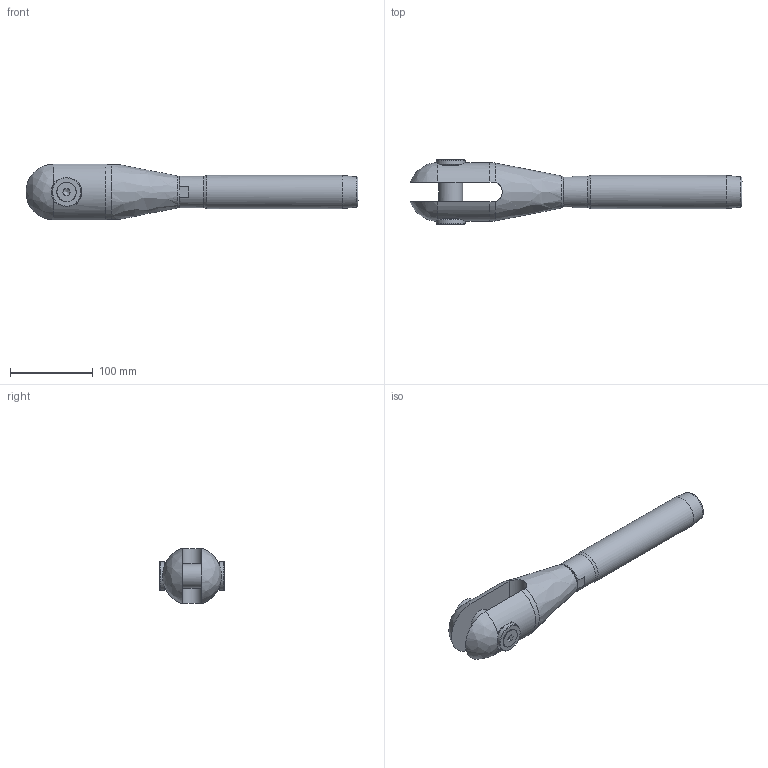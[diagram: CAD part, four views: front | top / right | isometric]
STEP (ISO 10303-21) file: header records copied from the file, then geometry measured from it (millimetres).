
FILE_DESCRIPTION(/* description */ (''),/* implementation_level */ '2;1');
FILE_NAME(/* name */ 'MAC-R 20_1,4418',/* time_stamp */ '2023-05-23T17:52:10+02:00',/* author */ (''),/* organization */ (''),/* preprocessor_version */ 'ST-DEVELOPER v16.5',/* originating_system */ 'Rhino 7.22',/* authorisation */ '');
FILE_SCHEMA (('CONFIG_CONTROL_DESIGN'));
Length unit declared in the file: millimetre
Products named in the file (1): Document
Bounding box: 400.39 x 79.37 x 66.82 mm (x, y, z)
Volume: 678220.8 mm3; surface area: 105874.5 mm2
Topology: 7 solids, 7 shells, 88 faces, 246 edges, 171 vertices
Faces by surface type: plane 36, bspline 28, cylinder 24
Full cylindrical faces by diameter (mm): 10.106 x2, 12 x2, 12.5 x2, 23.12 x2, 29 x1, 29.211 x1, 31 x2, 33 x1, 35 x2, 38.1 x1, 40 x1
Entity records: 3526 total; most frequent: CARTESIAN_POINT 1963, ORIENTED_EDGE 482, EDGE_CURVE 241, VERTEX_POINT 171, EDGE_LOOP 100, B_SPLINE_CURVE_WITH_KNOTS 97, ADVANCED_FACE 88, FACE_OUTER_BOUND 88
